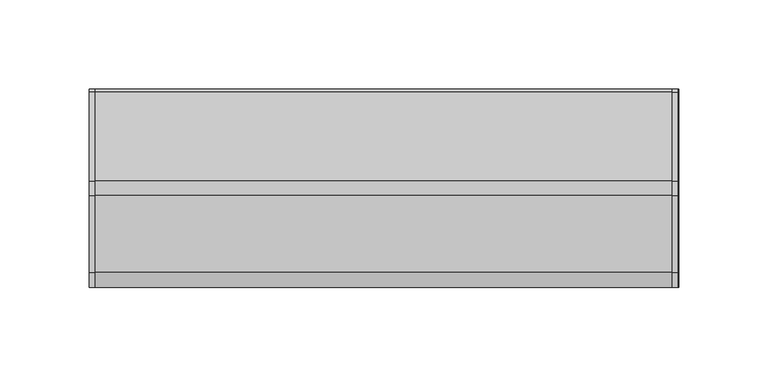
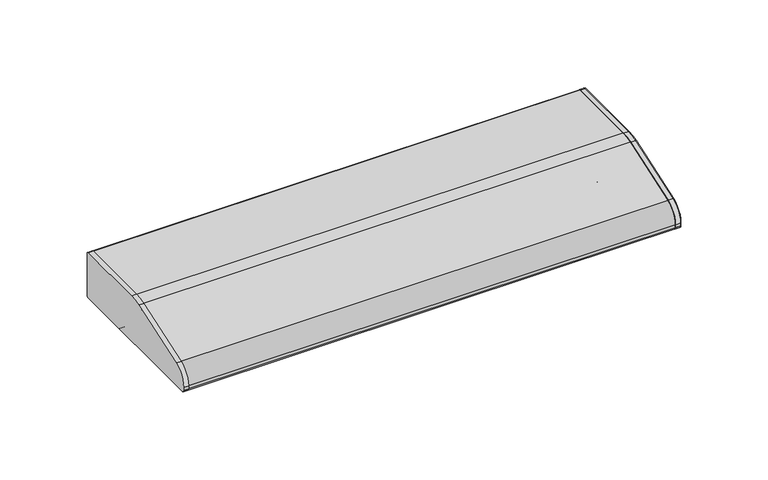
"""IFC4 building model written with IfcOpenShell, lengths in millimetres: light fixture geometry, HermanMiller_SupplementalProducts_G6136_UtilityTaskLight : AO Etho Canvas 24W."""

from ifc_helpers import new_model, si_unit, point, frame, frame_2d, origin, place, context, project, spatial, polyline, circle_curve, trimmed, segment, composite_curve, outline, extrude, source, transform, mapped, element, save


def light_fixture_c49e82c0(model_context):
    return source(origin(), model_context, "Body", "SweptSolid", [
        extrude(outline(composite_curve([segment(polyline([(53.975, 1562.1), (-53.975, 1562.1)]), True, "CONTINUOUS"), segment(trimmed(circle_curve(frame_2d((-53.975, 1563.6875)), 1.5875), [point((-53.975, 1562.1))], [point((-55.5625, 1563.6875))], False, "CARTESIAN"), True, "CONTINUOUS"), segment(polyline([(-55.5625, 1563.6875), (-55.5625, 1565.7285714)]), True, "CONTINUOUS"), segment(trimmed(circle_curve(frame_2d((-42.8625, 1565.7285714)), 12.7), [point((-55.5625, 1565.7285714))], [point((-46.9814189, 1577.7420849))], False, "CARTESIAN"), True, "CONTINUOUS"), segment(polyline([(-46.9814189, 1577.7420849), (-4.0045045, 1592.477027)]), True, "CONTINUOUS"), segment(trimmed(circle_curve(frame_2d((4.2333333, 1568.45)), 25.4), [point((-4.0045045, 1592.477027))], [point((4.2333333, 1593.85))], False, "CARTESIAN"), True, "CONTINUOUS"), segment(polyline([(4.2333333, 1593.85), (53.975, 1593.85)]), True, "CONTINUOUS"), segment(trimmed(circle_curve(frame_2d((53.975, 1592.2625)), 1.5875), [point((53.975, 1593.85))], [point((55.5625, 1592.2625))], False, "CARTESIAN"), True, "CONTINUOUS"), segment(polyline([(55.5625, 1592.2625), (55.5625, 1563.6875)]), True, "CONTINUOUS"), segment(trimmed(circle_curve(frame_2d((53.975, 1563.6875)), 1.5875), [point((55.5625, 1563.6875))], [point((53.975, 1562.1))], False, "CARTESIAN"), True, "CONTINUOUS")], self_intersect=False)), frame((161.544, 0.0, 0.0), z_axis=(1.0, 0.0, 0.0), x_axis=(0.0, 1.0, 0.0)), (0.0, 0.0, 1.0), 3.175),
        extrude(outline(composite_curve([segment(trimmed(circle_curve(frame_2d((53.975, 1592.2625)), 1.5875), [point((53.975, 1593.85))], [point((55.5625, 1592.2625))], False, "CARTESIAN"), True, "CONTINUOUS"), segment(polyline([(55.5625, 1592.2625), (55.5625, 1563.6875)]), True, "CONTINUOUS"), segment(trimmed(circle_curve(frame_2d((53.975, 1563.6875)), 1.5875), [point((55.5625, 1563.6875))], [point((53.975, 1562.1))], False, "CARTESIAN"), True, "CONTINUOUS"), segment(polyline([(53.975, 1562.1), (-53.975, 1562.1)]), True, "CONTINUOUS"), segment(trimmed(circle_curve(frame_2d((-53.975, 1563.6875)), 1.5875), [point((-53.975, 1562.1))], [point((-55.5625, 1563.6875))], False, "CARTESIAN"), True, "CONTINUOUS"), segment(polyline([(-55.5625, 1563.6875), (-55.5625, 1565.7285714)]), True, "CONTINUOUS"), segment(trimmed(circle_curve(frame_2d((-42.8625, 1565.7285714)), 12.7), [point((-55.5625, 1565.7285714))], [point((-46.9814189, 1577.7420849))], False, "CARTESIAN"), True, "CONTINUOUS"), segment(polyline([(-46.9814189, 1577.7420849), (-4.0045045, 1592.477027)]), True, "CONTINUOUS"), segment(trimmed(circle_curve(frame_2d((4.2333333, 1568.45)), 25.4), [point((-4.0045045, 1592.477027))], [point((4.2333333, 1593.85))], False, "CARTESIAN"), True, "CONTINUOUS"), segment(polyline([(4.2333333, 1593.85), (53.975, 1593.85)]), True, "CONTINUOUS")], self_intersect=False)), frame((-164.719, 0.0, 0.0), z_axis=(1.0, 0.0, 0.0), x_axis=(0.0, 1.0, 0.0)), (0.0, 0.0, 1.0), 3.175),
        extrude(outline(composite_curve([segment(polyline([(55.5625, 1592.2625), (55.5625, 1563.6875)]), True, "CONTINUOUS"), segment(trimmed(circle_curve(frame_2d((53.975, 1563.6875)), 1.5875), [point((55.5625, 1563.6875))], [point((53.975, 1562.1))], False, "CARTESIAN"), True, "CONTINUOUS"), segment(polyline([(53.975, 1562.1), (19.05, 1562.1)]), True, "CONTINUOUS"), segment(trimmed(circle_curve(frame_2d((19.05, 1563.6875)), 1.5875), [point((19.05, 1562.1))], [point((17.4625, 1563.6875))], False, "CARTESIAN"), True, "CONTINUOUS"), segment(polyline([(17.4625, 1563.6875), (17.4625, 1592.2625), (4.4979167, 1592.2625)]), True, "CONTINUOUS"), segment(trimmed(circle_curve(frame_2d((4.4979167, 1566.8625)), 25.4), [point((4.4979167, 1592.2625))], [point((-3.7399212, 1590.889527))], True, "CARTESIAN"), True, "CONTINUOUS"), segment(polyline([(-3.7399212, 1590.889527), (-37.4564189, 1579.3295849)]), True, "CONTINUOUS"), segment(trimmed(circle_curve(frame_2d((-33.3375, 1567.3160714)), 12.7), [point((-37.4564189, 1579.3295849))], [point((-46.0375, 1567.3160714))], True, "CARTESIAN"), True, "CONTINUOUS"), segment(polyline([(-46.0375, 1567.3160714), (-46.0375, 1563.6875)]), True, "CONTINUOUS"), segment(trimmed(circle_curve(frame_2d((-47.625, 1563.6875)), 1.5875), [point((-46.0375, 1563.6875))], [point((-47.625, 1562.1))], False, "CARTESIAN"), True, "CONTINUOUS"), segment(polyline([(-47.625, 1562.1), (-53.975, 1562.1)]), True, "CONTINUOUS"), segment(trimmed(circle_curve(frame_2d((-53.975, 1563.6875)), 1.5875), [point((-53.975, 1562.1))], [point((-55.5625, 1563.6875))], False, "CARTESIAN"), True, "CONTINUOUS"), segment(polyline([(-55.5625, 1563.6875), (-55.5625, 1565.7285714)]), True, "CONTINUOUS"), segment(trimmed(circle_curve(frame_2d((-42.8625, 1565.7285714)), 12.7), [point((-55.5625, 1565.7285714))], [point((-46.9814189, 1577.7420849))], False, "CARTESIAN"), True, "CONTINUOUS"), segment(polyline([(-46.9814189, 1577.7420849), (-4.0045045, 1592.477027)]), True, "CONTINUOUS"), segment(trimmed(circle_curve(frame_2d((4.2333333, 1568.45)), 25.4), [point((-4.0045045, 1592.477027))], [point((4.2333333, 1593.85))], False, "CARTESIAN"), True, "CONTINUOUS"), segment(polyline([(4.2333333, 1593.85), (53.975, 1593.85)]), True, "CONTINUOUS"), segment(trimmed(circle_curve(frame_2d((53.975, 1592.2625)), 1.5875), [point((53.975, 1593.85))], [point((55.5625, 1592.2625))], False, "CARTESIAN"), True, "CONTINUOUS")], self_intersect=False)), frame((-164.719, 0.0, 0.0), z_axis=(1.0, 0.0, 0.0), x_axis=(0.0, 1.0, 0.0)), (0.0, 0.0, 1.0), 329.9040011),
        extrude(outline(composite_curve([segment(trimmed(circle_curve(frame_2d((1.5875, 1579.5625)), 9.525), [point((-7.9375, 1579.5625))], [point((11.1125, 1579.5625))], False, "CARTESIAN"), True, "CONTINUOUS"), segment(trimmed(circle_curve(frame_2d((1.5875, 1579.5625)), 9.525), [point((11.1125, 1579.5625))], [point((-7.9375, 1579.5625))], False, "CARTESIAN"), True, "CONTINUOUS")], self_intersect=False)), frame((139.319, 0.0, 0.0), z_axis=(1.0, 0.0, 0.0), x_axis=(0.0, 1.0, 0.0)), (0.0, 0.0, 1.0), 12.7),
        extrude(outline(composite_curve([segment(trimmed(circle_curve(frame_2d((1.5875, 1579.5625)), 9.525), [point((-7.9375, 1579.5625))], [point((11.1125, 1579.5625))], False, "CARTESIAN"), True, "CONTINUOUS"), segment(trimmed(circle_curve(frame_2d((1.5875, 1579.5625)), 9.525), [point((11.1125, 1579.5625))], [point((-7.9375, 1579.5625))], False, "CARTESIAN"), True, "CONTINUOUS")], self_intersect=False)), frame((-152.019, 0.0, 0.0), z_axis=(1.0, 0.0, 0.0), x_axis=(0.0, 1.0, 0.0)), (0.0, 0.0, 1.0), 12.7),
        extrude(outline(composite_curve([segment(trimmed(circle_curve(frame_2d((1.5875, 1579.5625)), 9.525), [point((-7.9375, 1579.5625))], [point((11.1125, 1579.5625))], False, "CARTESIAN"), True, "CONTINUOUS"), segment(trimmed(circle_curve(frame_2d((1.5875, 1579.5625)), 9.525), [point((11.1125, 1579.5625))], [point((-7.9375, 1579.5625))], False, "CARTESIAN"), True, "CONTINUOUS")], self_intersect=False)), frame((-139.319, 0.0, 0.0), z_axis=(1.0, 0.0, 0.0), x_axis=(0.0, 1.0, 0.0)), (0.0, 0.0, 1.0), 278.638),
        extrude(outline(composite_curve([segment(polyline([(17.4625, 1565.275), (-46.0375, 1565.275), (-46.0375, 1567.3160714)]), True, "CONTINUOUS"), segment(trimmed(circle_curve(frame_2d((-33.3375, 1567.3160714)), 12.7), [point((-46.0375, 1567.3160714))], [point((-37.4564189, 1579.3295849))], False, "CARTESIAN"), True, "CONTINUOUS"), segment(polyline([(-37.4564189, 1579.3295849), (-3.7399212, 1590.889527)]), True, "CONTINUOUS"), segment(trimmed(circle_curve(frame_2d((4.4979167, 1566.8625)), 25.4), [point((-3.7399212, 1590.889527))], [point((4.4979167, 1592.2625))], False, "CARTESIAN"), True, "CONTINUOUS"), segment(polyline([(4.4979167, 1592.2625), (17.4625, 1592.2625), (17.4625, 1565.275)]), True, "CONTINUOUS")], self_intersect=False)), frame((152.019, 0.0, 0.0), z_axis=(1.0, 0.0, 0.0), x_axis=(0.0, 1.0, 0.0)), (0.0, 0.0, 1.0), 9.525),
        extrude(outline(composite_curve([segment(polyline([(17.4625, 1565.275), (-46.0375, 1565.275), (-46.0375, 1567.3160714)]), True, "CONTINUOUS"), segment(trimmed(circle_curve(frame_2d((-33.3375, 1567.3160714)), 12.7), [point((-46.0375, 1567.3160714))], [point((-37.4564189, 1579.3295849))], False, "CARTESIAN"), True, "CONTINUOUS"), segment(polyline([(-37.4564189, 1579.3295849), (-3.7399212, 1590.889527)]), True, "CONTINUOUS"), segment(trimmed(circle_curve(frame_2d((4.4979167, 1566.8625)), 25.4), [point((-3.7399212, 1590.889527))], [point((4.4979167, 1592.2625))], False, "CARTESIAN"), True, "CONTINUOUS"), segment(polyline([(4.4979167, 1592.2625), (17.4625, 1592.2625), (17.4625, 1565.275)]), True, "CONTINUOUS")], self_intersect=False)), frame((-161.544, 0.0, 0.0), z_axis=(1.0, 0.0, 0.0), x_axis=(0.0, 1.0, 0.0)), (0.0, 0.0, 1.0), 9.525),
    ])


if __name__ == "__main__":
    model = new_model("IFC4")
    model_context = context("Model", 3, world=origin())
    ifc_project = project(units=[si_unit("LENGTHUNIT", "METRE", prefix="MILLI")], contexts=[model_context])
    site = spatial("IfcSite", under=ifc_project)
    building = spatial("IfcBuilding", under=site)
    placement = place(None, origin())
    light_fixture_shape = light_fixture_c49e82c0(model_context)
    element("IfcLightFixture", 1, ObjectType="HermanMiller_SupplementalProducts_G6136_UtilityTaskLight : AO Etho Canvas 24W", at=placement, inside=building, context=model_context, shape_type="MappedRepresentation", body=[
        mapped(light_fixture_shape, transform((0.0, 0.0, 0.0), x_axis=(1.0, 0.0, 0.0), y_axis=(0.0, 1.0, 0.0), z_axis=(0.0, 0.0, 1.0))),
    ])
    save(model, "model.ifc")
